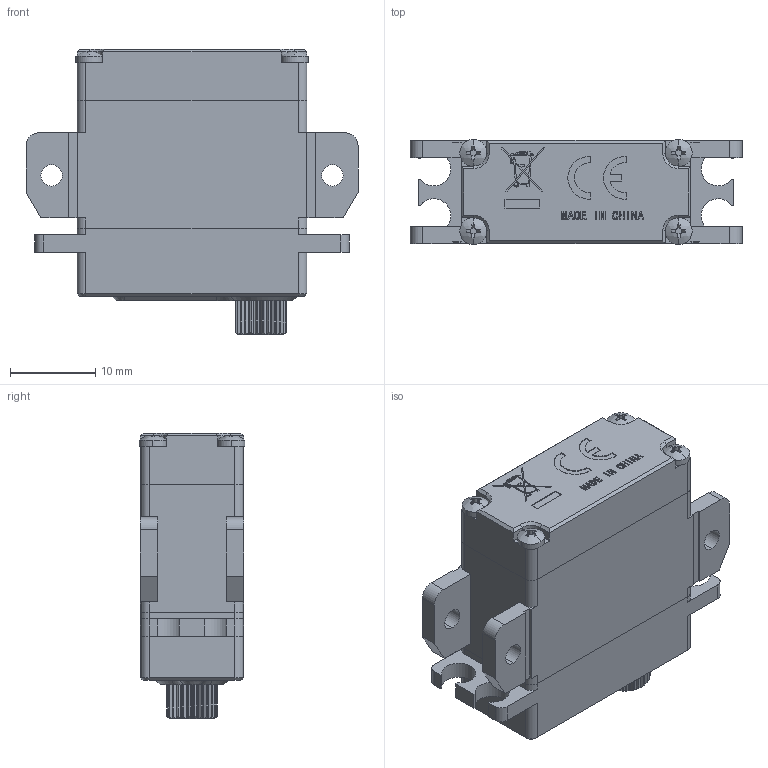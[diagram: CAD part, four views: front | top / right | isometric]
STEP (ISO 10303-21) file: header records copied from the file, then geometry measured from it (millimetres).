
FILE_DESCRIPTION (( 'STEP AP214' ), '1' );
FILE_NAME ('CM12_DM_202604.STEP', '2026-05-25T07:55:20', ( '' ), ( '' ), 'SwSTEP 2.0', 'SolidWorks 2016', '' );
FILE_SCHEMA (( 'AUTOMOTIVE_DESIGN' ));
Length unit declared in the file: millimetre
Products named in the file (1): CM12_DM_202604
Bounding box: 39 x 12.4 x 33.5 mm (x, y, z)
Surface area: 4691.7 mm2 (no closed solid volume)
Topology: 0 solids, 11 shells, 596 faces, 1879 edges, 1286 vertices
Faces by surface type: plane 387, cylinder 147, cone 41, bspline 21
Entity records: 28306 total; most frequent: CARTESIAN_POINT 5299, ORIENTED_EDGE 3422, DIRECTION 3234, EDGE_CURVE 1879, LINE 1294, VECTOR 1294, VERTEX_POINT 1286, AXIS2_PLACEMENT_3D 970
